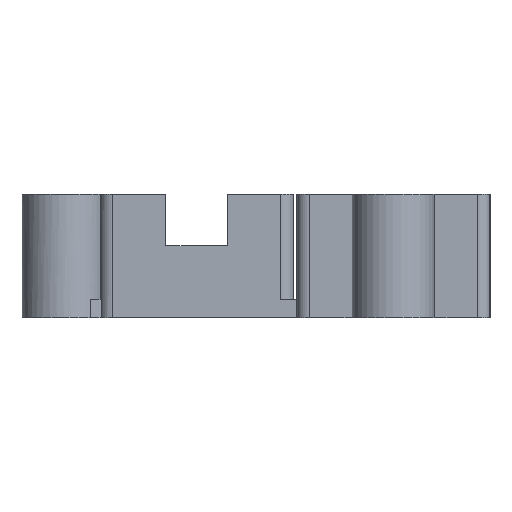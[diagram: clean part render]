
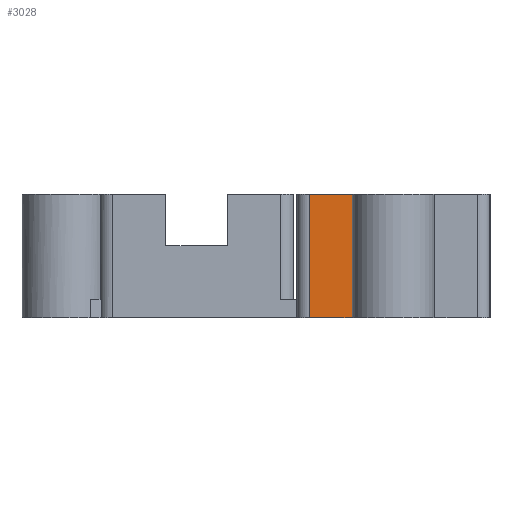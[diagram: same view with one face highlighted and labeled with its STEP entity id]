
A CAD part, left-side view. The second image highlights one B-rep face of the part: STEP entity #3028.
In plain terms, the highlighted planar face has unit normal (-1, 0, 0).
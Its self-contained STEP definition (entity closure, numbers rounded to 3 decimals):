
#99 = CYLINDRICAL_SURFACE('',#100,4.);
#100 = AXIS2_PLACEMENT_3D('',#101,#102,#103);
#101 = CARTESIAN_POINT('',(-41.5,9.525,10.));
#102 = DIRECTION('',(-0.,-0.,-1.));
#103 = DIRECTION('',(1.,0.,0.));
#126 = PLANE('',#127);
#127 = AXIS2_PLACEMENT_3D('',#128,#129,#130);
#128 = CARTESIAN_POINT('',(-39.075,6.525,17.));
#129 = DIRECTION('',(0.,0.,1.));
#130 = DIRECTION('',(1.,0.,0.));
#234 = PLANE('',#235);
#235 = AXIS2_PLACEMENT_3D('',#236,#237,#238);
#236 = CARTESIAN_POINT('',(-37.925,0.175,10.));
#237 = DIRECTION('',(0.,0.,1.));
#238 = DIRECTION('',(1.,0.,0.));
#369 = PLANE('',#370);
#370 = AXIS2_PLACEMENT_3D('',#371,#372,#373);
#371 = CARTESIAN_POINT('',(-34.,13.525,10.));
#372 = DIRECTION('',(0.,-1.,0.));
#373 = DIRECTION('',(0.,0.,1.));
#382 = VERTEX_POINT('',#383);
#383 = CARTESIAN_POINT('',(-37.925,11.319,11.8));
#398 = PLANE('',#399);
#399 = AXIS2_PLACEMENT_3D('',#400,#401,#402);
#400 = CARTESIAN_POINT('',(-37.925,0.175,11.8));
#401 = DIRECTION('',(0.,0.,1.));
#402 = DIRECTION('',(1.,0.,0.));
#414 = EDGE_CURVE('',#415,#382,#417,.T.);
#415 = VERTEX_POINT('',#416);
#416 = CARTESIAN_POINT('',(-37.925,11.319,17.));
#417 = SURFACE_CURVE('',#418,(#422,#428),.PCURVE_S1.);
#418 = LINE('',#419,#420);
#419 = CARTESIAN_POINT('',(-37.925,11.319,10.));
#420 = VECTOR('',#421,1.);
#421 = DIRECTION('',(-0.,-0.,-1.));
#422 = PCURVE('',#99,#423);
#423 = DEFINITIONAL_REPRESENTATION('',(#424),#427);
#424 = B_SPLINE_CURVE_WITH_KNOTS('',1,(#425,#426),.UNSPECIFIED.,.F.,.F.,
  (2,2),(-12.,-0.78),.PIECEWISE_BEZIER_KNOTS.);
#425 = CARTESIAN_POINT('',(-0.465,-12.));
#426 = CARTESIAN_POINT('',(-0.465,-0.78));
#427 = ( GEOMETRIC_REPRESENTATION_CONTEXT(2) 
PARAMETRIC_REPRESENTATION_CONTEXT() REPRESENTATION_CONTEXT('2D SPACE',''
  ) );
#428 = PCURVE('',#429,#434);
#429 = PLANE('',#430);
#430 = AXIS2_PLACEMENT_3D('',#431,#432,#433);
#431 = CARTESIAN_POINT('',(-37.925,0.175,10.));
#432 = DIRECTION('',(1.,0.,0.));
#433 = DIRECTION('',(0.,0.,1.));
#434 = DEFINITIONAL_REPRESENTATION('',(#435),#439);
#435 = LINE('',#436,#437);
#436 = CARTESIAN_POINT('',(0.,-11.144));
#437 = VECTOR('',#438,1.);
#438 = DIRECTION('',(-1.,0.));
#439 = ( GEOMETRIC_REPRESENTATION_CONTEXT(2) 
PARAMETRIC_REPRESENTATION_CONTEXT() REPRESENTATION_CONTEXT('2D SPACE',''
  ) );
#574 = VERTEX_POINT('',#575);
#575 = CARTESIAN_POINT('',(-37.925,12.525,17.));
#591 = PLANE('',#592);
#592 = AXIS2_PLACEMENT_3D('',#593,#594,#595);
#593 = CARTESIAN_POINT('',(-39.075,12.525,17.));
#594 = DIRECTION('',(0.,1.,0.));
#595 = DIRECTION('',(0.,0.,1.));
#603 = EDGE_CURVE('',#574,#415,#604,.T.);
#604 = SURFACE_CURVE('',#605,(#609,#615),.PCURVE_S1.);
#605 = LINE('',#606,#607);
#606 = CARTESIAN_POINT('',(-37.925,3.35,17.));
#607 = VECTOR('',#608,1.);
#608 = DIRECTION('',(0.,-1.,0.));
#609 = PCURVE('',#126,#610);
#610 = DEFINITIONAL_REPRESENTATION('',(#611),#614);
#611 = B_SPLINE_CURVE_WITH_KNOTS('',1,(#612,#613),.UNSPECIFIED.,.F.,.F.,
  (2,2),(-9.175,-3.175),.PIECEWISE_BEZIER_KNOTS.);
#612 = CARTESIAN_POINT('',(1.15,6.));
#613 = CARTESIAN_POINT('',(1.15,0.));
#614 = ( GEOMETRIC_REPRESENTATION_CONTEXT(2) 
PARAMETRIC_REPRESENTATION_CONTEXT() REPRESENTATION_CONTEXT('2D SPACE',''
  ) );
#615 = PCURVE('',#429,#616);
#616 = DEFINITIONAL_REPRESENTATION('',(#617),#621);
#617 = LINE('',#618,#619);
#618 = CARTESIAN_POINT('',(7.,-3.175));
#619 = VECTOR('',#620,1.);
#620 = DIRECTION('',(0.,1.));
#621 = ( GEOMETRIC_REPRESENTATION_CONTEXT(2) 
PARAMETRIC_REPRESENTATION_CONTEXT() REPRESENTATION_CONTEXT('2D SPACE',''
  ) );
#1536 = VERTEX_POINT('',#1537);
#1537 = CARTESIAN_POINT('',(-37.925,17.675,10.));
#1556 = CYLINDRICAL_SURFACE('',#1557,1.2);
#1557 = AXIS2_PLACEMENT_3D('',#1558,#1559,#1560);
#1558 = CARTESIAN_POINT('',(-36.725,17.675,10.));
#1559 = DIRECTION('',(0.,0.,1.));
#1560 = DIRECTION('',(-1.,-0.,0.));
#1568 = EDGE_CURVE('',#1569,#1536,#1571,.T.);
#1569 = VERTEX_POINT('',#1570);
#1570 = CARTESIAN_POINT('',(-37.925,13.525,10.));
#1571 = SURFACE_CURVE('',#1572,(#1576,#1583),.PCURVE_S1.);
#1572 = LINE('',#1573,#1574);
#1573 = CARTESIAN_POINT('',(-37.925,0.175,10.));
#1574 = VECTOR('',#1575,1.);
#1575 = DIRECTION('',(0.,1.,0.));
#1576 = PCURVE('',#234,#1577);
#1577 = DEFINITIONAL_REPRESENTATION('',(#1578),#1582);
#1578 = LINE('',#1579,#1580);
#1579 = CARTESIAN_POINT('',(0.,0.));
#1580 = VECTOR('',#1581,1.);
#1581 = DIRECTION('',(0.,1.));
#1582 = ( GEOMETRIC_REPRESENTATION_CONTEXT(2) 
PARAMETRIC_REPRESENTATION_CONTEXT() REPRESENTATION_CONTEXT('2D SPACE',''
  ) );
#1583 = PCURVE('',#429,#1584);
#1584 = DEFINITIONAL_REPRESENTATION('',(#1585),#1589);
#1585 = LINE('',#1586,#1587);
#1586 = CARTESIAN_POINT('',(0.,0.));
#1587 = VECTOR('',#1588,1.);
#1588 = DIRECTION('',(0.,-1.));
#1589 = ( GEOMETRIC_REPRESENTATION_CONTEXT(2) 
PARAMETRIC_REPRESENTATION_CONTEXT() REPRESENTATION_CONTEXT('2D SPACE',''
  ) );
#2950 = EDGE_CURVE('',#2951,#1569,#2953,.T.);
#2951 = VERTEX_POINT('',#2952);
#2952 = CARTESIAN_POINT('',(-37.925,13.525,11.8));
#2953 = SURFACE_CURVE('',#2954,(#2958,#2964),.PCURVE_S1.);
#2954 = LINE('',#2955,#2956);
#2955 = CARTESIAN_POINT('',(-37.925,13.525,10.));
#2956 = VECTOR('',#2957,1.);
#2957 = DIRECTION('',(0.,-0.,-1.));
#2958 = PCURVE('',#369,#2959);
#2959 = DEFINITIONAL_REPRESENTATION('',(#2960),#2963);
#2960 = B_SPLINE_CURVE_WITH_KNOTS('',1,(#2961,#2962),.UNSPECIFIED.,.F.,
  .F.,(2,2),(-1.8,0.),.PIECEWISE_BEZIER_KNOTS.);
#2961 = CARTESIAN_POINT('',(1.8,3.925));
#2962 = CARTESIAN_POINT('',(0.,3.925));
#2963 = ( GEOMETRIC_REPRESENTATION_CONTEXT(2) 
PARAMETRIC_REPRESENTATION_CONTEXT() REPRESENTATION_CONTEXT('2D SPACE',''
  ) );
#2964 = PCURVE('',#429,#2965);
#2965 = DEFINITIONAL_REPRESENTATION('',(#2966),#2970);
#2966 = LINE('',#2967,#2968);
#2967 = CARTESIAN_POINT('',(0.,-13.35));
#2968 = VECTOR('',#2969,1.);
#2969 = DIRECTION('',(-1.,0.));
#2970 = ( GEOMETRIC_REPRESENTATION_CONTEXT(2) 
PARAMETRIC_REPRESENTATION_CONTEXT() REPRESENTATION_CONTEXT('2D SPACE',''
  ) );
#3028 = ADVANCED_FACE('',(#3029),#429,.F.);
#3029 = FACE_BOUND('',#3030,.F.);
#3030 = EDGE_LOOP('',(#3031,#3054,#3082,#3102,#3103,#3104,#3125,#3126));
#3031 = ORIENTED_EDGE('',*,*,#3032,.F.);
#3032 = EDGE_CURVE('',#3033,#1536,#3035,.T.);
#3033 = VERTEX_POINT('',#3034);
#3034 = CARTESIAN_POINT('',(-37.925,17.675,22.));
#3035 = SURFACE_CURVE('',#3036,(#3040,#3047),.PCURVE_S1.);
#3036 = LINE('',#3037,#3038);
#3037 = CARTESIAN_POINT('',(-37.925,17.675,22.));
#3038 = VECTOR('',#3039,1.);
#3039 = DIRECTION('',(0.,0.,-1.));
#3040 = PCURVE('',#429,#3041);
#3041 = DEFINITIONAL_REPRESENTATION('',(#3042),#3046);
#3042 = LINE('',#3043,#3044);
#3043 = CARTESIAN_POINT('',(12.,-17.5));
#3044 = VECTOR('',#3045,1.);
#3045 = DIRECTION('',(-1.,0.));
#3046 = ( GEOMETRIC_REPRESENTATION_CONTEXT(2) 
PARAMETRIC_REPRESENTATION_CONTEXT() REPRESENTATION_CONTEXT('2D SPACE',''
  ) );
#3047 = PCURVE('',#1556,#3048);
#3048 = DEFINITIONAL_REPRESENTATION('',(#3049),#3053);
#3049 = LINE('',#3050,#3051);
#3050 = CARTESIAN_POINT('',(-0.,12.));
#3051 = VECTOR('',#3052,1.);
#3052 = DIRECTION('',(-0.,-1.));
#3053 = ( GEOMETRIC_REPRESENTATION_CONTEXT(2) 
PARAMETRIC_REPRESENTATION_CONTEXT() REPRESENTATION_CONTEXT('2D SPACE',''
  ) );
#3054 = ORIENTED_EDGE('',*,*,#3055,.F.);
#3055 = EDGE_CURVE('',#3056,#3033,#3058,.T.);
#3056 = VERTEX_POINT('',#3057);
#3057 = CARTESIAN_POINT('',(-37.925,12.525,22.));
#3058 = SURFACE_CURVE('',#3059,(#3063,#3070),.PCURVE_S1.);
#3059 = LINE('',#3060,#3061);
#3060 = CARTESIAN_POINT('',(-37.925,0.175,22.));
#3061 = VECTOR('',#3062,1.);
#3062 = DIRECTION('',(0.,1.,0.));
#3063 = PCURVE('',#429,#3064);
#3064 = DEFINITIONAL_REPRESENTATION('',(#3065),#3069);
#3065 = LINE('',#3066,#3067);
#3066 = CARTESIAN_POINT('',(12.,0.));
#3067 = VECTOR('',#3068,1.);
#3068 = DIRECTION('',(0.,-1.));
#3069 = ( GEOMETRIC_REPRESENTATION_CONTEXT(2) 
PARAMETRIC_REPRESENTATION_CONTEXT() REPRESENTATION_CONTEXT('2D SPACE',''
  ) );
#3070 = PCURVE('',#3071,#3076);
#3071 = PLANE('',#3072);
#3072 = AXIS2_PLACEMENT_3D('',#3073,#3074,#3075);
#3073 = CARTESIAN_POINT('',(-37.925,0.175,22.));
#3074 = DIRECTION('',(0.,0.,1.));
#3075 = DIRECTION('',(1.,0.,0.));
#3076 = DEFINITIONAL_REPRESENTATION('',(#3077),#3081);
#3077 = LINE('',#3078,#3079);
#3078 = CARTESIAN_POINT('',(0.,0.));
#3079 = VECTOR('',#3080,1.);
#3080 = DIRECTION('',(0.,1.));
#3081 = ( GEOMETRIC_REPRESENTATION_CONTEXT(2) 
PARAMETRIC_REPRESENTATION_CONTEXT() REPRESENTATION_CONTEXT('2D SPACE',''
  ) );
#3082 = ORIENTED_EDGE('',*,*,#3083,.F.);
#3083 = EDGE_CURVE('',#574,#3056,#3084,.T.);
#3084 = SURFACE_CURVE('',#3085,(#3089,#3096),.PCURVE_S1.);
#3085 = LINE('',#3086,#3087);
#3086 = CARTESIAN_POINT('',(-37.925,12.525,14.4));
#3087 = VECTOR('',#3088,1.);
#3088 = DIRECTION('',(0.,0.,1.));
#3089 = PCURVE('',#429,#3090);
#3090 = DEFINITIONAL_REPRESENTATION('',(#3091),#3095);
#3091 = LINE('',#3092,#3093);
#3092 = CARTESIAN_POINT('',(4.4,-12.35));
#3093 = VECTOR('',#3094,1.);
#3094 = DIRECTION('',(1.,0.));
#3095 = ( GEOMETRIC_REPRESENTATION_CONTEXT(2) 
PARAMETRIC_REPRESENTATION_CONTEXT() REPRESENTATION_CONTEXT('2D SPACE',''
  ) );
#3096 = PCURVE('',#591,#3097);
#3097 = DEFINITIONAL_REPRESENTATION('',(#3098),#3101);
#3098 = B_SPLINE_CURVE_WITH_KNOTS('',1,(#3099,#3100),.UNSPECIFIED.,.F.,
  .F.,(2,2),(2.6,7.6),.PIECEWISE_BEZIER_KNOTS.);
#3099 = CARTESIAN_POINT('',(0.,1.15));
#3100 = CARTESIAN_POINT('',(5.,1.15));
#3101 = ( GEOMETRIC_REPRESENTATION_CONTEXT(2) 
PARAMETRIC_REPRESENTATION_CONTEXT() REPRESENTATION_CONTEXT('2D SPACE',''
  ) );
#3102 = ORIENTED_EDGE('',*,*,#603,.T.);
#3103 = ORIENTED_EDGE('',*,*,#414,.T.);
#3104 = ORIENTED_EDGE('',*,*,#3105,.T.);
#3105 = EDGE_CURVE('',#382,#2951,#3106,.T.);
#3106 = SURFACE_CURVE('',#3107,(#3111,#3118),.PCURVE_S1.);
#3107 = LINE('',#3108,#3109);
#3108 = CARTESIAN_POINT('',(-37.925,0.175,11.8));
#3109 = VECTOR('',#3110,1.);
#3110 = DIRECTION('',(0.,1.,0.));
#3111 = PCURVE('',#429,#3112);
#3112 = DEFINITIONAL_REPRESENTATION('',(#3113),#3117);
#3113 = LINE('',#3114,#3115);
#3114 = CARTESIAN_POINT('',(1.8,0.));
#3115 = VECTOR('',#3116,1.);
#3116 = DIRECTION('',(0.,-1.));
#3117 = ( GEOMETRIC_REPRESENTATION_CONTEXT(2) 
PARAMETRIC_REPRESENTATION_CONTEXT() REPRESENTATION_CONTEXT('2D SPACE',''
  ) );
#3118 = PCURVE('',#398,#3119);
#3119 = DEFINITIONAL_REPRESENTATION('',(#3120),#3124);
#3120 = LINE('',#3121,#3122);
#3121 = CARTESIAN_POINT('',(0.,0.));
#3122 = VECTOR('',#3123,1.);
#3123 = DIRECTION('',(0.,1.));
#3124 = ( GEOMETRIC_REPRESENTATION_CONTEXT(2) 
PARAMETRIC_REPRESENTATION_CONTEXT() REPRESENTATION_CONTEXT('2D SPACE',''
  ) );
#3125 = ORIENTED_EDGE('',*,*,#2950,.T.);
#3126 = ORIENTED_EDGE('',*,*,#1568,.T.);
